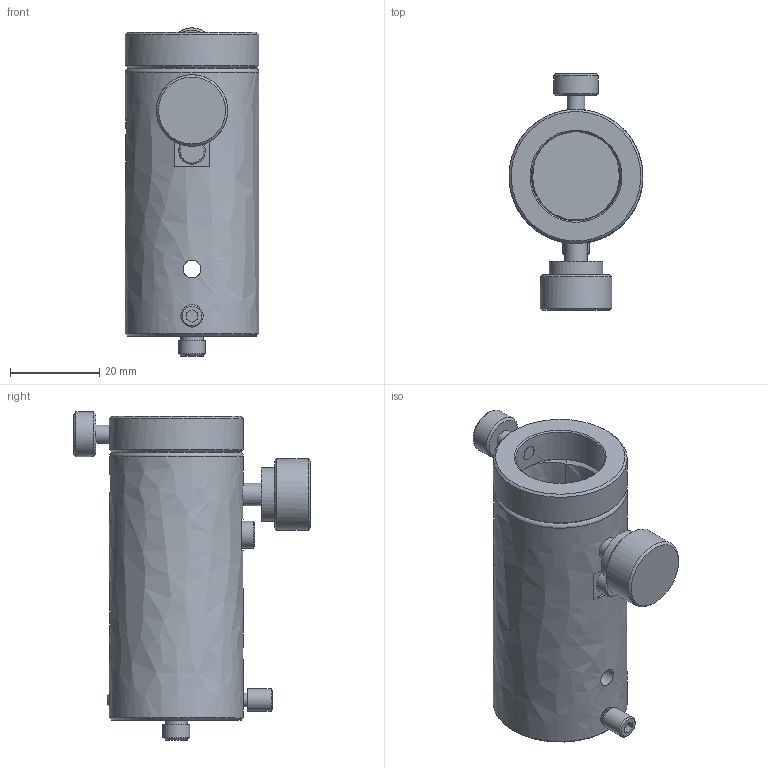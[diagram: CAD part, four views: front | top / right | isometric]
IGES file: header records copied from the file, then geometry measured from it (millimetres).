
Global section: file name: BRS-20-60-M6; native system: Autodesk Inventor 2021; preprocessor: unknown; author: e.nonaka; date: 20220914.173723; units: millimetre
Bounding box: 30 x 53 x 73.5 mm (x, y, z)
Volume: 30690.3 mm3; surface area: 13588.9 mm2
Topology: 1 solids, 1 shells, 80 faces, 167 edges, 109 vertices
Faces by surface type: bspline 80
